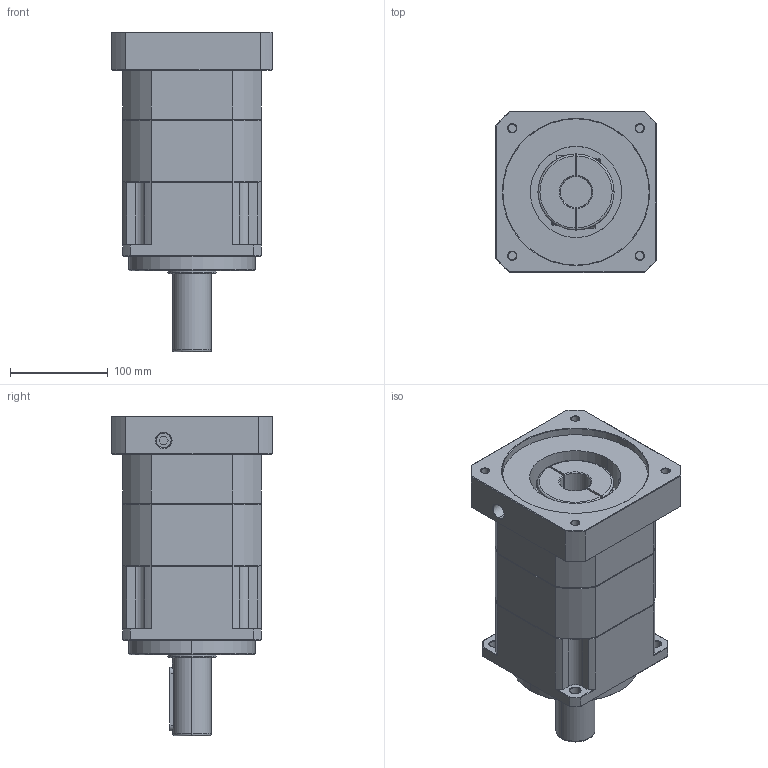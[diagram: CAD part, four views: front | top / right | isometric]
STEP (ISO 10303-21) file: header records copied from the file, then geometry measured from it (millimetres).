
FILE_DESCRIPTION (( 'STEP AP214' ), '1' );
FILE_NAME ('ZPB142-L2-P1-S2-32-150-185-M10.step', '2024-07-05T00:18:45', ( 'Windows 蚚誧' ), ( 'Organization' ), 'SwSTEP 2.0', 'SolidWorks 2016', '' );
FILE_SCHEMA (( 'AUTOMOTIVE_DESIGN' ));
Length unit declared in the file: millimetre
Products named in the file (1): ZPB142-L2-P1-S2-32-150-185-M10
Bounding box: 165 x 165 x 327.5 mm (x, y, z)
Surface area: 253173.4 mm2 (no closed solid volume)
Topology: 0 solids, 37 shells, 1793 faces, 4772 edges, 3054 vertices
Faces by surface type: plane 924, bspline 383, cone 271, cylinder 215
Full cylindrical faces by diameter (mm): 14 x1
Entity records: 100736 total; most frequent: CARTESIAN_POINT 50646, ORIENTED_EDGE 9519, DIRECTION 7320, EDGE_CURVE 4771, VECTOR 3158, LINE 3158, VERTEX_POINT 3054, AXIS2_PLACEMENT_3D 2081
